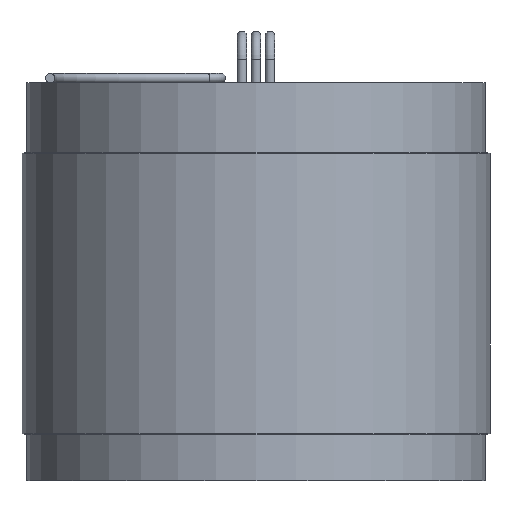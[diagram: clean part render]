
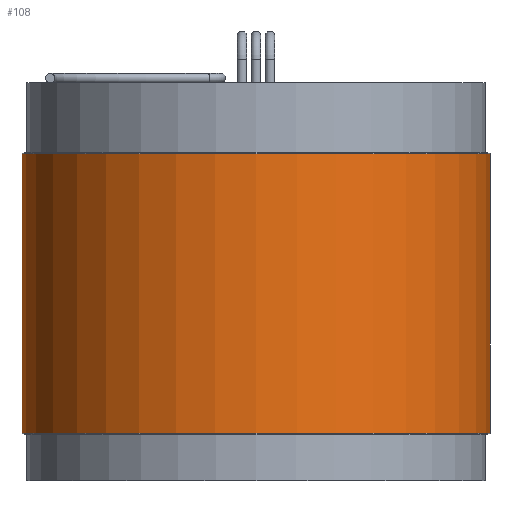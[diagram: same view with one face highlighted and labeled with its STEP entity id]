
A CAD part, front view. The second image highlights one B-rep face of the part: STEP entity #108.
In plain terms, the highlighted cylindrical face has radius 63.5 mm (diameter 127 mm), a full revolution.
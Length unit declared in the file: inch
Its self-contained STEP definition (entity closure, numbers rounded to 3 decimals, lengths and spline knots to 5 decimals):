
#37 = EDGE_CURVE ( 'NONE', #786, #786, #1148, .T. ) ;
#47 = AXIS2_PLACEMENT_3D ( 'NONE', #728, #522, #76 ) ;
#57 = EDGE_LOOP ( 'NONE', ( #299 ) ) ;
#76 = DIRECTION ( 'NONE',  ( 1., 0., 0. ) ) ;
#108 = ADVANCED_FACE ( 'NONE', ( #986, #919 ), #1353, .T. ) ;
#163 = AXIS2_PLACEMENT_3D ( 'NONE', #984, #1007, #208 ) ;
#208 = DIRECTION ( 'NONE',  ( 1., 0., 0. ) ) ;
#216 = CARTESIAN_POINT ( 'NONE',  ( 0., 0., -1.51 ) ) ;
#299 = ORIENTED_EDGE ( 'NONE', *, *, #37, .T. ) ;
#302 = DIRECTION ( 'NONE',  ( 0., 0., 1. ) ) ;
#522 = DIRECTION ( 'NONE',  ( 0., 0., 1. ) ) ;
#585 = AXIS2_PLACEMENT_3D ( 'NONE', #216, #302, #1102 ) ;
#686 = CARTESIAN_POINT ( 'NONE',  ( 2.5, 0., -1.49213 ) ) ;
#728 = CARTESIAN_POINT ( 'NONE',  ( 0., 0., -1.49213 ) ) ;
#762 = EDGE_CURVE ( 'NONE', #1295, #1295, #1164, .T. ) ;
#786 = VERTEX_POINT ( 'NONE', #686 ) ;
#831 = CARTESIAN_POINT ( 'NONE',  ( 2.5, 0., 1.49213 ) ) ;
#919 = FACE_OUTER_BOUND ( 'NONE', #57, .T. ) ;
#984 = CARTESIAN_POINT ( 'NONE',  ( 0., 0., 1.49213 ) ) ;
#986 = FACE_OUTER_BOUND ( 'NONE', #1224, .T. ) ;
#1007 = DIRECTION ( 'NONE',  ( 0., 0., 1. ) ) ;
#1046 = ORIENTED_EDGE ( 'NONE', *, *, #762, .F. ) ;
#1102 = DIRECTION ( 'NONE',  ( 1., 0., 0. ) ) ;
#1148 = CIRCLE ( 'NONE', #47, 2.5 ) ;
#1164 = CIRCLE ( 'NONE', #163, 2.5 ) ;
#1224 = EDGE_LOOP ( 'NONE', ( #1046 ) ) ;
#1295 = VERTEX_POINT ( 'NONE', #831 ) ;
#1353 = CYLINDRICAL_SURFACE ( 'NONE', #585, 2.5 ) ;
